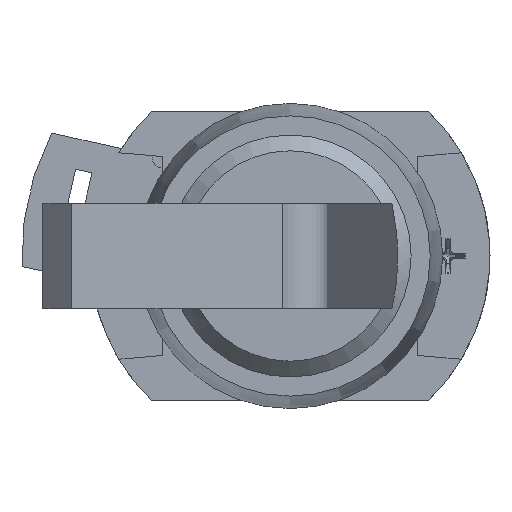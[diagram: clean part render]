
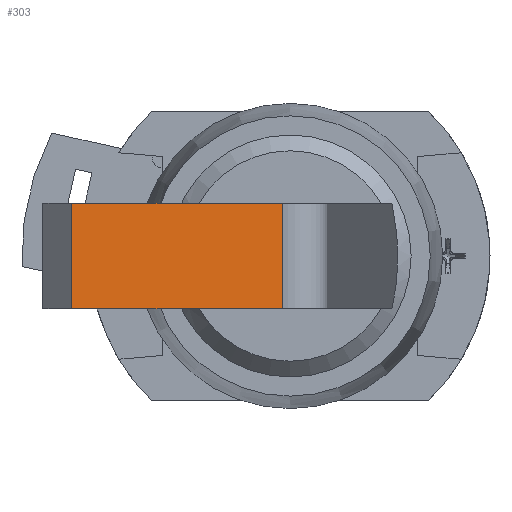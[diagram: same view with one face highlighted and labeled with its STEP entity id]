
A CAD part, left-side view. The second image highlights one B-rep face of the part: STEP entity #303.
In plain terms, the highlighted planar face has unit normal (-0.729, -0.685, 0).
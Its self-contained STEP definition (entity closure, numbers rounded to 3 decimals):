
#10 = EDGE_CURVE ( 'NONE', #1202, #1198, #4386, .T. ) ;
#11 = EDGE_CURVE ( 'NONE', #1202, #1201, #4388, .T. ) ;
#12 = EDGE_CURVE ( 'NONE', #1199, #1200, #4384, .T. ) ;
#14 = EDGE_CURVE ( 'NONE', #1199, #1197, #4391, .T. ) ;
#15 = EDGE_CURVE ( 'NONE', #1197, #1198, #4395, .T. ) ;
#16 = EDGE_CURVE ( 'NONE', #1201, #1200, #4393, .T. ) ;
#303 = ADVANCED_FACE ( 'NONE', ( #5399 ), #6008, .T. ) ;
#591 = EDGE_LOOP ( 'NONE', ( #11980, #11808, #11811, #11813, #11983, #11812 ) ) ;
#1197 = VERTEX_POINT ( 'NONE', #6746 ) ;
#1198 = VERTEX_POINT ( 'NONE', #6747 ) ;
#1199 = VERTEX_POINT ( 'NONE', #6748 ) ;
#1200 = VERTEX_POINT ( 'NONE', #6749 ) ;
#1201 = VERTEX_POINT ( 'NONE', #6750 ) ;
#1202 = VERTEX_POINT ( 'NONE', #6751 ) ;
#1235 = CARTESIAN_POINT ( 'NONE',  ( -16.659, 20.76, 0. ) ) ;
#1241 = CARTESIAN_POINT ( 'NONE',  ( -16.659, 20.76, -5. ) ) ;
#1242 = DIRECTION ( 'NONE',  ( 0.685, -0.729, 0. ) ) ;
#1243 = CARTESIAN_POINT ( 'NONE',  ( 2.175, 0.723, 5. ) ) ;
#1244 = CARTESIAN_POINT ( 'NONE',  ( 2.175, 0.723, -5. ) ) ;
#1245 = DIRECTION ( 'NONE',  ( 0., 0., 1. ) ) ;
#1247 = DIRECTION ( 'NONE',  ( -0.685, 0.729, 0. ) ) ;
#1250 = CARTESIAN_POINT ( 'NONE',  ( 2.175, 0.723, 0. ) ) ;
#1251 = DIRECTION ( 'NONE',  ( 0., 0., -1. ) ) ;
#1252 = CARTESIAN_POINT ( 'NONE',  ( -16.659, 20.76, 5. ) ) ;
#1253 = DIRECTION ( 'NONE',  ( -0.685, 0.729, 0. ) ) ;
#1255 = DIRECTION ( 'NONE',  ( 0.685, -0.729, 0. ) ) ;
#3940 = AXIS2_PLACEMENT_3D ( 'NONE', #6011, #6017, #6018 ) ;
#4382 = VECTOR ( 'NONE', #1242, 1000. ) ;
#4383 = VECTOR ( 'NONE', #1251, 1000. ) ;
#4384 = LINE ( 'NONE', #1243, #4392 ) ;
#4386 = LINE ( 'NONE', #1241, #4382 ) ;
#4388 = LINE ( 'NONE', #1235, #4390 ) ;
#4390 = VECTOR ( 'NONE', #1245, 1000. ) ;
#4391 = LINE ( 'NONE', #1250, #4383 ) ;
#4392 = VECTOR ( 'NONE', #1247, 1000. ) ;
#4393 = LINE ( 'NONE', #1252, #4399 ) ;
#4395 = LINE ( 'NONE', #1244, #4397 ) ;
#4397 = VECTOR ( 'NONE', #1253, 1000. ) ;
#4399 = VECTOR ( 'NONE', #1255, 1000. ) ;
#5399 = FACE_OUTER_BOUND ( 'NONE', #591, .T. ) ;
#6008 = PLANE ( 'NONE',  #3940 ) ;
#6011 = CARTESIAN_POINT ( 'NONE',  ( 2.175, 0.723, 0. ) ) ;
#6017 = DIRECTION ( 'NONE',  ( -0.729, -0.685, 0. ) ) ;
#6018 = DIRECTION ( 'NONE',  ( 0.685, -0.729, 0. ) ) ;
#6746 = CARTESIAN_POINT ( 'NONE',  ( 2.175, 0.723, -5. ) ) ;
#6747 = CARTESIAN_POINT ( 'NONE',  ( -1.5, 4.633, -5. ) ) ;
#6748 = CARTESIAN_POINT ( 'NONE',  ( 2.175, 0.723, 5. ) ) ;
#6749 = CARTESIAN_POINT ( 'NONE',  ( -1.5, 4.633, 5. ) ) ;
#6750 = CARTESIAN_POINT ( 'NONE',  ( -16.659, 20.76, 5. ) ) ;
#6751 = CARTESIAN_POINT ( 'NONE',  ( -16.659, 20.76, -5. ) ) ;
#11808 = ORIENTED_EDGE ( 'NONE', *, *, #14, .F. ) ;
#11811 = ORIENTED_EDGE ( 'NONE', *, *, #12, .T. ) ;
#11812 = ORIENTED_EDGE ( 'NONE', *, *, #10, .T. ) ;
#11813 = ORIENTED_EDGE ( 'NONE', *, *, #16, .F. ) ;
#11980 = ORIENTED_EDGE ( 'NONE', *, *, #15, .F. ) ;
#11983 = ORIENTED_EDGE ( 'NONE', *, *, #11, .F. ) ;
